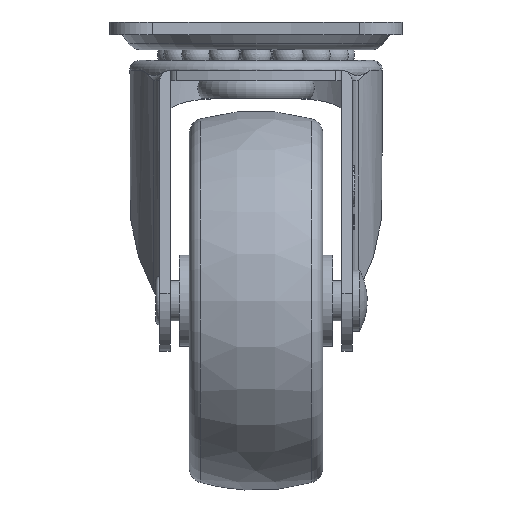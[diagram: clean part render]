
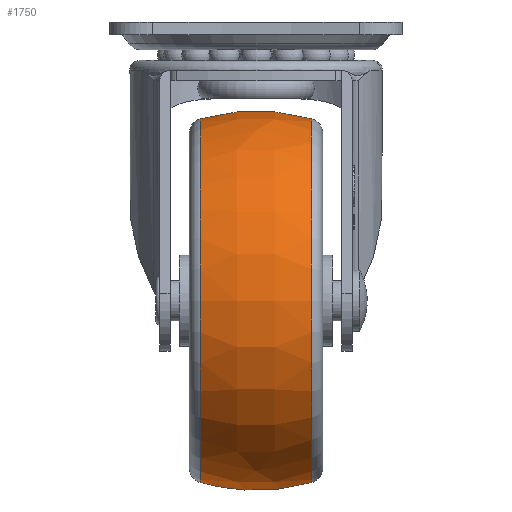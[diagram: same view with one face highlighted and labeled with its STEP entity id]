
A CAD part, left-side view. The second image highlights one B-rep face of the part: STEP entity #1750.
In plain terms, the highlighted free-form (B-spline) face has degree [3, 3] with [4, 7] control points.
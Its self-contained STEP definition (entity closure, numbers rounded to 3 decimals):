
#47=(
BOUNDED_SURFACE()
B_SPLINE_SURFACE(3,3,((#12772,#12773,#12774,#12775,#12776,#12777,#12778),
(#12779,#12780,#12781,#12782,#12783,#12784,#12785),(#12786,#12787,#12788,
#12789,#12790,#12791,#12792),(#12793,#12794,#12795,#12796,#12797,#12798,
#12799)),.UNSPECIFIED.,.F.,.T.,.F.)
B_SPLINE_SURFACE_WITH_KNOTS((4,4),(1,3,3,3,1),(0.,1.),(-0.5,0.,0.5,1.,1.5),
 .UNSPECIFIED.)
GEOMETRIC_REPRESENTATION_ITEM()
RATIONAL_B_SPLINE_SURFACE(((1.,0.333,0.333,1.,0.333,
0.333,1.),(0.974,0.325,0.325,
0.974,0.325,0.325,0.974),
(0.974,0.325,0.325,0.974,
0.325,0.325,0.974),(1.,0.333,
0.333,1.,0.333,0.333,1.)))
REPRESENTATION_ITEM('')
SURFACE()
);
#1750=ADVANCED_FACE('',(#2025,#2026),#47,.T.);
#2025=FACE_BOUND('',#2491,.T.);
#2026=FACE_BOUND('',#2492,.T.);
#2491=EDGE_LOOP('',(#4111));
#2492=EDGE_LOOP('',(#4112));
#4111=ORIENTED_EDGE('',*,*,#5514,.T.);
#4112=ORIENTED_EDGE('',*,*,#5511,.T.);
#4701=VERTEX_POINT('',#12741);
#4704=VERTEX_POINT('',#12749);
#5511=EDGE_CURVE('',#4701,#4701,#5711,.T.);
#5514=EDGE_CURVE('',#4704,#4704,#5714,.T.);
#5711=CIRCLE('',#6231,35.95);
#5714=CIRCLE('',#6236,35.95);
#6231=AXIS2_PLACEMENT_3D('',#12740,#7555,#7556);
#6236=AXIS2_PLACEMENT_3D('',#12748,#7565,#7566);
#7555=DIRECTION('',(0.,-1.,0.));
#7556=DIRECTION('',(0.,0.,-1.));
#7565=DIRECTION('',(0.,1.,0.));
#7566=DIRECTION('',(0.,0.,1.));
#12740=CARTESIAN_POINT('',(-29.,11.027,-55.1));
#12741=CARTESIAN_POINT('',(-29.,11.027,-91.05));
#12748=CARTESIAN_POINT('',(-29.,-11.027,-55.1));
#12749=CARTESIAN_POINT('',(-29.,-11.027,-19.15));
#12772=CARTESIAN_POINT('',(-29.,-11.027,-91.05));
#12773=CARTESIAN_POINT('',(42.9,-11.027,-91.05));
#12774=CARTESIAN_POINT('',(42.9,-11.027,-19.15));
#12775=CARTESIAN_POINT('',(-29.,-11.027,-19.15));
#12776=CARTESIAN_POINT('',(-100.9,-11.027,-19.15));
#12777=CARTESIAN_POINT('',(-100.9,-11.027,-91.05));
#12778=CARTESIAN_POINT('',(-29.,-11.027,-91.05));
#12779=CARTESIAN_POINT('',(-29.,-3.773,-93.13));
#12780=CARTESIAN_POINT('',(47.061,-3.773,-93.13));
#12781=CARTESIAN_POINT('',(47.061,-3.773,-17.07));
#12782=CARTESIAN_POINT('',(-29.,-3.773,-17.07));
#12783=CARTESIAN_POINT('',(-105.061,-3.773,-17.07));
#12784=CARTESIAN_POINT('',(-105.061,-3.773,-93.13));
#12785=CARTESIAN_POINT('',(-29.,-3.773,-93.13));
#12786=CARTESIAN_POINT('',(-29.,3.773,-93.13));
#12787=CARTESIAN_POINT('',(47.061,3.773,-93.13));
#12788=CARTESIAN_POINT('',(47.061,3.773,-17.07));
#12789=CARTESIAN_POINT('',(-29.,3.773,-17.07));
#12790=CARTESIAN_POINT('',(-105.061,3.773,-17.07));
#12791=CARTESIAN_POINT('',(-105.061,3.773,-93.13));
#12792=CARTESIAN_POINT('',(-29.,3.773,-93.13));
#12793=CARTESIAN_POINT('',(-29.,11.027,-91.05));
#12794=CARTESIAN_POINT('',(42.9,11.027,-91.05));
#12795=CARTESIAN_POINT('',(42.9,11.027,-19.15));
#12796=CARTESIAN_POINT('',(-29.,11.027,-19.15));
#12797=CARTESIAN_POINT('',(-100.9,11.027,-19.15));
#12798=CARTESIAN_POINT('',(-100.9,11.027,-91.05));
#12799=CARTESIAN_POINT('',(-29.,11.027,-91.05));
